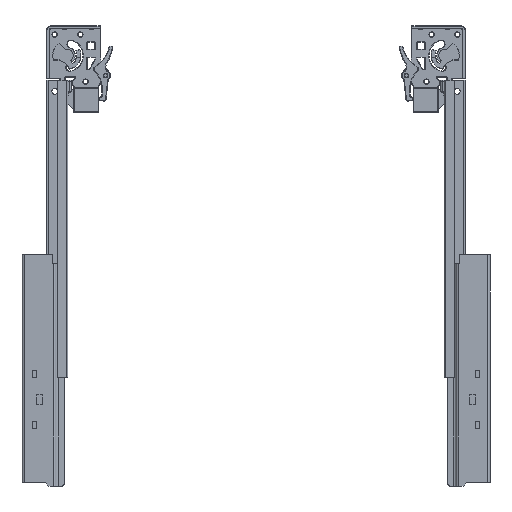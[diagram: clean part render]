
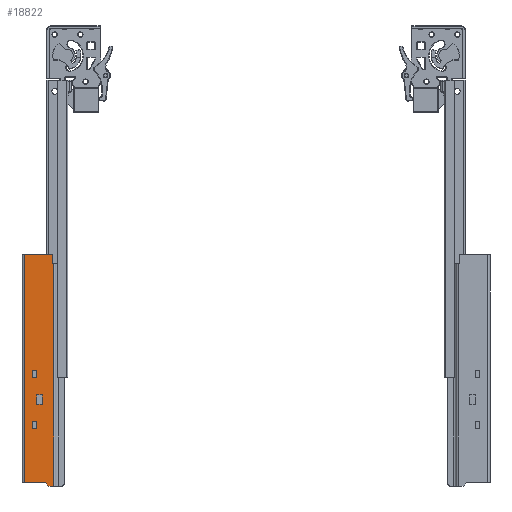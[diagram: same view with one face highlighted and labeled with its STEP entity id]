
A CAD part, front view. The second image highlights one B-rep face of the part: STEP entity #18822.
In plain terms, the highlighted planar face has unit normal (0, -1, 0).
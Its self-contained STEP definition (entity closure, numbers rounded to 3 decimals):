
#621=FACE_BOUND('',#3725,.T.);
#622=FACE_BOUND('',#3726,.T.);
#623=FACE_BOUND('',#3727,.T.);
#1321=CIRCLE('',#20034,0.5);
#1322=CIRCLE('',#20035,0.5);
#2570=FACE_OUTER_BOUND('',#3724,.T.);
#3724=EDGE_LOOP('',(#12045,#12046,#12047,#12048,#12049,#12050,#12051,#12052,
#12053,#12054));
#3725=EDGE_LOOP('',(#12055,#12056,#12057,#12058));
#3726=EDGE_LOOP('',(#12059,#12060,#12061,#12062));
#3727=EDGE_LOOP('',(#12063,#12064,#12065,#12066));
#5105=LINE('',#28376,#6377);
#5109=LINE('',#28384,#6381);
#5112=LINE('',#28390,#6384);
#5115=LINE('',#28395,#6387);
#5117=LINE('',#28401,#6389);
#5121=LINE('',#28409,#6393);
#5124=LINE('',#28415,#6396);
#5127=LINE('',#28420,#6399);
#5129=LINE('',#28426,#6401);
#5133=LINE('',#28434,#6405);
#5136=LINE('',#28440,#6408);
#5139=LINE('',#28445,#6411);
#5141=LINE('',#28451,#6413);
#5156=LINE('',#28499,#6428);
#5164=LINE('',#28519,#6436);
#5165=LINE('',#28523,#6437);
#5166=LINE('',#28525,#6438);
#5167=LINE('',#28527,#6439);
#5168=LINE('',#28531,#6440);
#5169=LINE('',#28534,#6441);
#6377=VECTOR('',#22370,6.);
#6381=VECTOR('',#22376,3.5);
#6384=VECTOR('',#22381,6.);
#6387=VECTOR('',#22386,3.5);
#6389=VECTOR('',#22392,6.);
#6393=VECTOR('',#22398,3.5);
#6396=VECTOR('',#22403,6.);
#6399=VECTOR('',#22408,3.5);
#6401=VECTOR('',#22414,8.);
#6405=VECTOR('',#22420,5.);
#6408=VECTOR('',#22425,8.);
#6411=VECTOR('',#22430,5.);
#6413=VECTOR('',#22436,4.243);
#6428=VECTOR('',#22471,18.);
#6436=VECTOR('',#22491,195.);
#6437=VECTOR('',#22496,4.);
#6438=VECTOR('',#22497,190.5);
#6439=VECTOR('',#22498,0.5);
#6440=VECTOR('',#22501,6.5);
#6441=VECTOR('',#22504,23.5);
#7649=VERTEX_POINT('',#28374);
#7650=VERTEX_POINT('',#28375);
#7653=VERTEX_POINT('',#28383);
#7655=VERTEX_POINT('',#28389);
#7657=VERTEX_POINT('',#28399);
#7658=VERTEX_POINT('',#28400);
#7661=VERTEX_POINT('',#28408);
#7663=VERTEX_POINT('',#28414);
#7665=VERTEX_POINT('',#28424);
#7666=VERTEX_POINT('',#28425);
#7669=VERTEX_POINT('',#28433);
#7671=VERTEX_POINT('',#28439);
#7673=VERTEX_POINT('',#28449);
#7674=VERTEX_POINT('',#28450);
#7697=VERTEX_POINT('',#28498);
#7703=VERTEX_POINT('',#28518);
#7704=VERTEX_POINT('',#28522);
#7705=VERTEX_POINT('',#28524);
#7706=VERTEX_POINT('',#28526);
#7707=VERTEX_POINT('',#28528);
#7708=VERTEX_POINT('',#28530);
#7709=VERTEX_POINT('',#28532);
#9271=EDGE_CURVE('',#7649,#7650,#5105,.T.);
#9275=EDGE_CURVE('',#7650,#7653,#5109,.T.);
#9278=EDGE_CURVE('',#7653,#7655,#5112,.T.);
#9281=EDGE_CURVE('',#7655,#7649,#5115,.T.);
#9283=EDGE_CURVE('',#7657,#7658,#5117,.T.);
#9287=EDGE_CURVE('',#7658,#7661,#5121,.T.);
#9290=EDGE_CURVE('',#7661,#7663,#5124,.T.);
#9293=EDGE_CURVE('',#7663,#7657,#5127,.T.);
#9295=EDGE_CURVE('',#7665,#7666,#5129,.T.);
#9299=EDGE_CURVE('',#7666,#7669,#5133,.T.);
#9302=EDGE_CURVE('',#7669,#7671,#5136,.T.);
#9305=EDGE_CURVE('',#7671,#7665,#5139,.T.);
#9307=EDGE_CURVE('',#7673,#7674,#5141,.T.);
#9331=EDGE_CURVE('',#7697,#7673,#5156,.T.);
#9341=EDGE_CURVE('',#7703,#7697,#5164,.T.);
#9343=EDGE_CURVE('',#7704,#7674,#5165,.T.);
#9344=EDGE_CURVE('',#7705,#7704,#5166,.T.);
#9345=EDGE_CURVE('',#7705,#7706,#5167,.T.);
#9346=EDGE_CURVE('',#7707,#7706,#1321,.T.);
#9347=EDGE_CURVE('',#7707,#7708,#5168,.T.);
#9348=EDGE_CURVE('',#7709,#7708,#1322,.T.);
#9349=EDGE_CURVE('',#7703,#7709,#5169,.T.);
#12045=ORIENTED_EDGE('',*,*,#9331,.T.);
#12046=ORIENTED_EDGE('',*,*,#9307,.T.);
#12047=ORIENTED_EDGE('',*,*,#9343,.F.);
#12048=ORIENTED_EDGE('',*,*,#9344,.F.);
#12049=ORIENTED_EDGE('',*,*,#9345,.T.);
#12050=ORIENTED_EDGE('',*,*,#9346,.F.);
#12051=ORIENTED_EDGE('',*,*,#9347,.T.);
#12052=ORIENTED_EDGE('',*,*,#9348,.F.);
#12053=ORIENTED_EDGE('',*,*,#9349,.F.);
#12054=ORIENTED_EDGE('',*,*,#9341,.T.);
#12055=ORIENTED_EDGE('',*,*,#9271,.T.);
#12056=ORIENTED_EDGE('',*,*,#9275,.T.);
#12057=ORIENTED_EDGE('',*,*,#9278,.T.);
#12058=ORIENTED_EDGE('',*,*,#9281,.T.);
#12059=ORIENTED_EDGE('',*,*,#9283,.T.);
#12060=ORIENTED_EDGE('',*,*,#9287,.T.);
#12061=ORIENTED_EDGE('',*,*,#9290,.T.);
#12062=ORIENTED_EDGE('',*,*,#9293,.T.);
#12063=ORIENTED_EDGE('',*,*,#9295,.T.);
#12064=ORIENTED_EDGE('',*,*,#9299,.T.);
#12065=ORIENTED_EDGE('',*,*,#9302,.T.);
#12066=ORIENTED_EDGE('',*,*,#9305,.T.);
#17304=PLANE('',#20033);
#18822=ADVANCED_FACE('',(#2570,#621,#622,#623),#17304,.T.);
#20033=AXIS2_PLACEMENT_3D('',#28521,#22494,#22495);
#20034=AXIS2_PLACEMENT_3D('',#28529,#22499,#22500);
#20035=AXIS2_PLACEMENT_3D('',#28533,#22502,#22503);
#22370=DIRECTION('',(0.,0.,1.));
#22376=DIRECTION('',(1.,0.,0.));
#22381=DIRECTION('',(0.,0.,-1.));
#22386=DIRECTION('',(-1.,0.,0.));
#22392=DIRECTION('',(0.,0.,1.));
#22398=DIRECTION('',(1.,0.,0.));
#22403=DIRECTION('',(0.,0.,-1.));
#22408=DIRECTION('',(-1.,0.,0.));
#22414=DIRECTION('',(0.,0.,1.));
#22420=DIRECTION('',(1.,0.,0.));
#22425=DIRECTION('',(0.,0.,-1.));
#22430=DIRECTION('',(-1.,0.,0.));
#22436=DIRECTION('',(0.707,0.,-0.707));
#22471=DIRECTION('',(1.,0.,0.));
#22491=DIRECTION('',(0.,0.,-1.));
#22494=DIRECTION('center_axis',(0.,-1.,0.));
#22495=DIRECTION('ref_axis',(-1.,0.,0.));
#22496=DIRECTION('',(-1.,0.,0.));
#22497=DIRECTION('',(0.,0.,-1.));
#22498=DIRECTION('',(-1.,0.,0.));
#22499=DIRECTION('center_axis',(0.,-1.,0.));
#22500=DIRECTION('ref_axis',(-0.707,0.,-0.707));
#22501=DIRECTION('',(0.,0.,1.));
#22502=DIRECTION('center_axis',(0.,1.,0.));
#22503=DIRECTION('ref_axis',(0.707,0.,0.707));
#22504=DIRECTION('',(1.,0.,0.));
#28374=CARTESIAN_POINT('',(9.,0.,-105.));
#28375=CARTESIAN_POINT('',(9.,0.,-99.));
#28376=CARTESIAN_POINT('',(9.,0.,-49.5));
#28383=CARTESIAN_POINT('',(12.5,0.,-99.));
#28384=CARTESIAN_POINT('',(19.75,0.,-99.));
#28389=CARTESIAN_POINT('',(12.5,0.,-105.));
#28390=CARTESIAN_POINT('',(12.5,0.,-52.5));
#28395=CARTESIAN_POINT('',(18.,0.,-105.));
#28399=CARTESIAN_POINT('',(9.,0.,-149.));
#28400=CARTESIAN_POINT('',(9.,0.,-143.));
#28401=CARTESIAN_POINT('',(9.,0.,-71.5));
#28408=CARTESIAN_POINT('',(12.5,0.,-143.));
#28409=CARTESIAN_POINT('',(19.75,0.,-143.));
#28414=CARTESIAN_POINT('',(12.5,0.,-149.));
#28415=CARTESIAN_POINT('',(12.5,0.,-74.5));
#28420=CARTESIAN_POINT('',(18.,0.,-149.));
#28424=CARTESIAN_POINT('',(12.5,0.,-128.));
#28425=CARTESIAN_POINT('',(12.5,0.,-120.));
#28426=CARTESIAN_POINT('',(12.5,0.,-60.));
#28433=CARTESIAN_POINT('',(17.5,0.,-120.));
#28434=CARTESIAN_POINT('',(22.25,0.,-120.));
#28439=CARTESIAN_POINT('',(17.5,0.,-128.));
#28440=CARTESIAN_POINT('',(17.5,0.,-64.));
#28445=CARTESIAN_POINT('',(19.75,0.,-128.));
#28449=CARTESIAN_POINT('',(20.,0.,-195.));
#28450=CARTESIAN_POINT('',(23.,0.,-198.));
#28451=CARTESIAN_POINT('',(-27.,0.,-148.));
#28498=CARTESIAN_POINT('',(2.,0.,-195.));
#28499=CARTESIAN_POINT('',(13.5,0.,-195.));
#28518=CARTESIAN_POINT('',(2.,0.,0.));
#28519=CARTESIAN_POINT('',(2.,0.,0.));
#28521=CARTESIAN_POINT('Origin',(27.,0.,0.));
#28522=CARTESIAN_POINT('',(27.,0.,-198.));
#28523=CARTESIAN_POINT('',(2.,0.,-198.));
#28524=CARTESIAN_POINT('',(27.,0.,-7.5));
#28525=CARTESIAN_POINT('',(27.,0.,0.));
#28526=CARTESIAN_POINT('',(26.5,0.,-7.5));
#28527=CARTESIAN_POINT('',(30.,0.,-7.5));
#28528=CARTESIAN_POINT('',(26.,0.,-7.));
#28529=CARTESIAN_POINT('Origin',(26.5,0.,
-7.));
#28530=CARTESIAN_POINT('',(26.,0.,-0.5));
#28531=CARTESIAN_POINT('',(26.,0.,-3.75));
#28532=CARTESIAN_POINT('',(25.5,0.,0.));
#28533=CARTESIAN_POINT('Origin',(25.5,0.,
-0.5));
#28534=CARTESIAN_POINT('',(2.,0.,0.));
